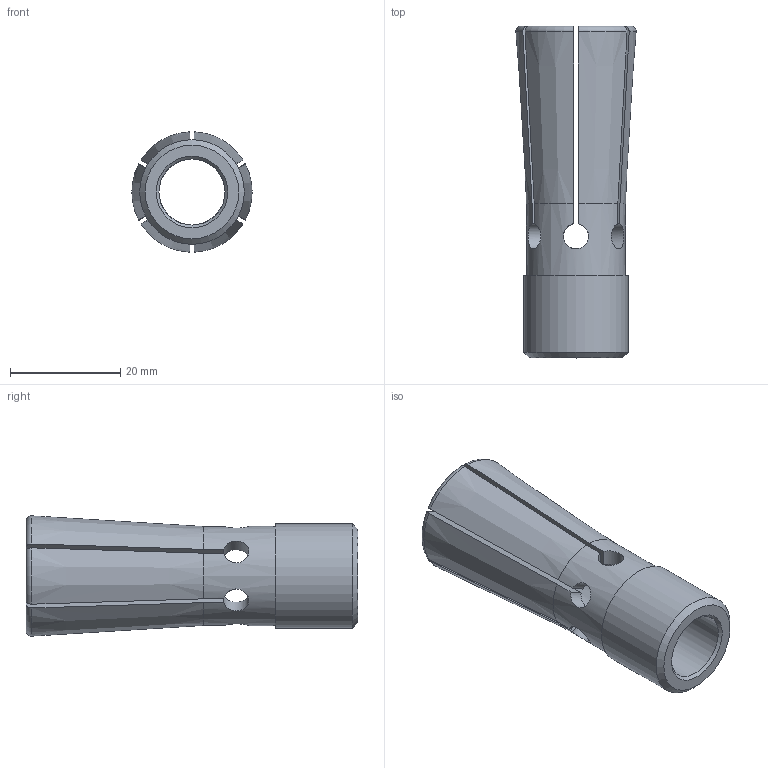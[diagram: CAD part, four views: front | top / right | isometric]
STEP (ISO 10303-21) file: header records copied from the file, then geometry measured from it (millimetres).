
FILE_DESCRIPTION(/* description */ (''),/* implementation_level */ '2;1');
FILE_NAME(/* name */ 'Z:\Проектный отдел\4INVENTOR Модели комплектующих\Комплектующие к ЧПУ\Шпиндели электрические\Цанги\Цанга для оправки DC12-12.stp',/* time_stamp */ '2024-03-20T10:57:19+03:00',/* author */ ('User'),/* organization */ (''),/* preprocessor_version */ 'ST-DEVELOPER v18',/* originating_system */ 'Autodesk Inventor 2020',/* authorisation */ '');
FILE_SCHEMA (('AUTOMOTIVE_DESIGN { 1 0 10303 214 3 1 1 }'));
Length unit declared in the file: millimetre
Products named in the file (1): Цанга для оправки 
DC12-12
Bounding box: 21.87 x 60.3 x 21.86 mm (x, y, z)
Volume: 9893.6 mm3; surface area: 7675.1 mm2
Topology: 1 solids, 1 shells, 49 faces, 148 edges, 101 vertices
Faces by surface type: plane 20, cone 14, cylinder 9, torus 6
Full cylindrical faces by diameter (mm): 12 x1, 18 x1, 19 x1
Entity records: 2198 total; most frequent: CARTESIAN_POINT 905, ORIENTED_EDGE 296, DIRECTION 235, EDGE_CURVE 148, VERTEX_POINT 101, AXIS2_PLACEMENT_3D 91, LINE 53, VECTOR 53
